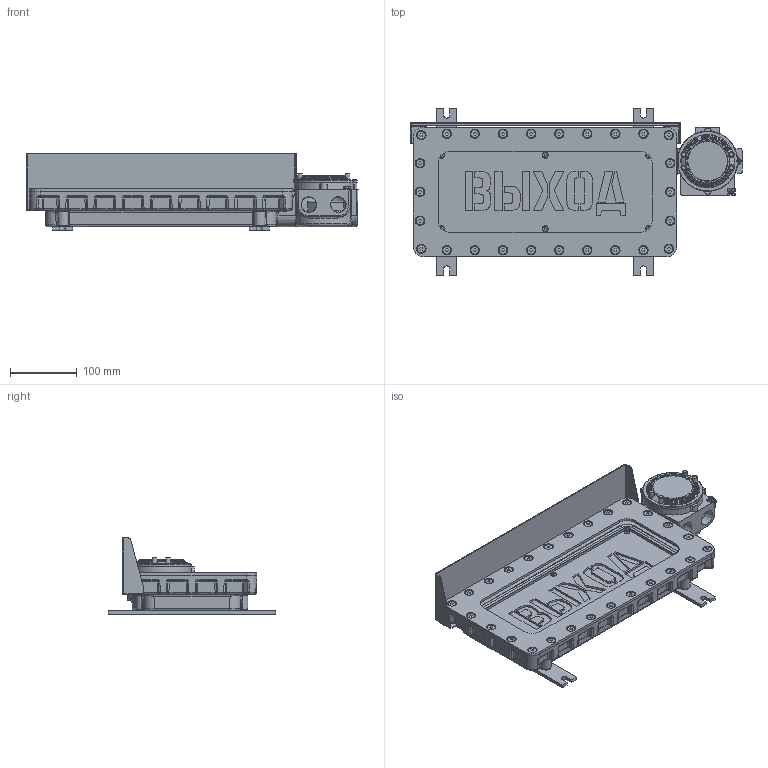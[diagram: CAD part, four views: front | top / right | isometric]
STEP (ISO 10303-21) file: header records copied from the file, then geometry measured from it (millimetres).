
FILE_DESCRIPTION((''),'2;1');
FILE_NAME('C:\Users\L.A.Ronzhin\Desktop\Новая папка (3)\ТЗ 40076\ПГС-ИТ\ПГС-ИТ35-ВЫХОД-Б-З_220AC_КОЗЫРЁК.stp','2019-04-10T14:42:13',('L.A.Ronzhin'),(''),'Autodesk Inventor 2012','Autodesk Inventor 2012','');
FILE_SCHEMA(('CONFIG_CONTROL_DESIGN'));
Length unit declared in the file: millimetre
Products named in the file (1): ПГС-ИТ35-ВЫХОД-Б-З_220AC_КОЗЫРЁК_Внешний контур_1
Bounding box: 496.39 x 250 x 114 mm (x, y, z)
Surface area: 1001810.3 mm2 (no closed solid volume)
Topology: 0 solids, 68 shells, 4709 faces, 11617 edges, 7359 vertices
Faces by surface type: plane 2285, bspline 1114, cylinder 763, cone 305, torus 122, sphere 120
Full cylindrical faces by diameter (mm): 0.8 x8, 1.2 x12, 1.4 x12, 3.2 x7, 3.4 x8, 3.65 x2, 4 x9, 4.1 x5, 4.5 x30, 4.9 x26, 5 x6, 6 x28, 6.6 x4, 6.9 x2, 7 x26, 8 x10, 9 x4, 12 x26, 16 x4, 18 x2, 22.6 x3, 77 x1, 77.8 x1, 80 x1, 83 x1
Entity records: 153593 total; most frequent: CARTESIAN_POINT 48722, ORIENTED_EDGE 22006, DIRECTION 17710, EDGE_CURVE 11003, VERTEX_POINT 7230, VECTOR 6094, LINE 6094, AXIS2_PLACEMENT_3D 5808
